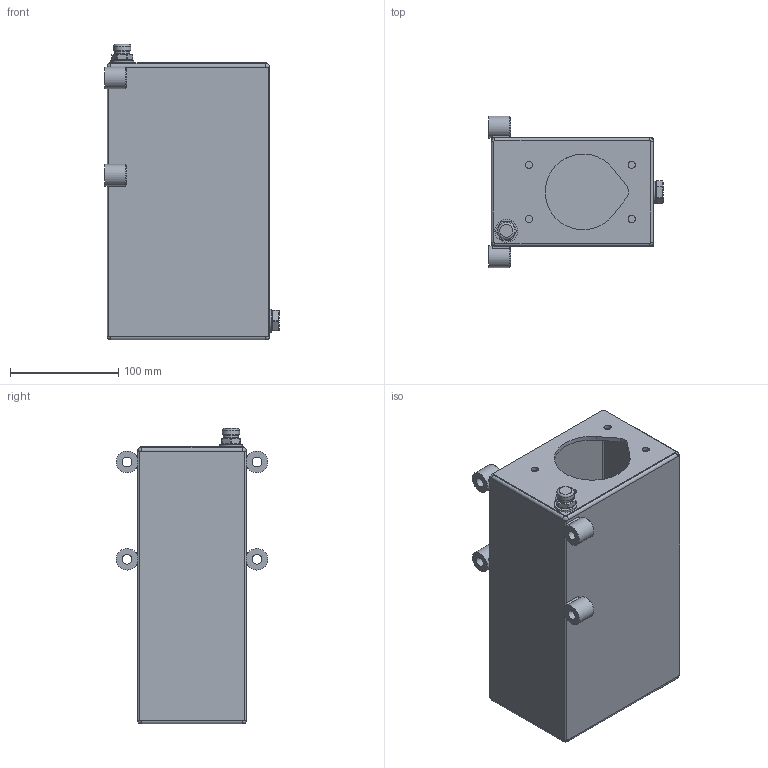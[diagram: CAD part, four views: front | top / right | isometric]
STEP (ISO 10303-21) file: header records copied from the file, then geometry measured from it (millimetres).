
FILE_DESCRIPTION(/* description */ ('S3_(ac)_(100x150)'),/* implementation_level */ '2;1');
FILE_NAME(/* name */ '6500.0360.stp',/* time_stamp */ '2026-02-12T07:55:08+01:00',/* author */ ('christian.scardovi'),/* organization */ ('HV HYDRAULIC s.r.l.'),/* preprocessor_version */ 'ST-DEVELOPER v20.1',/* originating_system */ 'Autodesk Inventor 2026',/* authorisation */ '');
FILE_SCHEMA (('AUTOMOTIVE_DESIGN { 1 0 10303 214 3 1 1 }'));
Length unit declared in the file: millimetre
Products named in the file (12): 6500.0360; 0046.0370.00.00; 0046.0370.00.90; 0046.0370.00.90_1; 0040.0002.00.00; 0022.0052.00.00; 0022.0014.00.00; 0027.0003.00.00; 0022.0010.00.00; 0019.0020.00.00; 0036.0010.00.00; 0036.0006.00.00
Assembly tree (15 placements, depth 4):
  6500.0360
    0046.0370.00.00
      0046.0370.00.90
        0046.0370.00.90_1
        0040.0002.00.00
        0022.0052.00.00
        0022.0014.00.00
        0027.0003.00.00  x4
        0022.0010.00.00
    0019.0020.00.00  x2
    0036.0010.00.00
    0036.0006.00.00
Bounding box: 161 x 140 x 273 mm (x, y, z)
Volume: 480381.6 mm3; surface area: 324156.2 mm2
Topology: 22 solids, 22 shells, 235 faces, 516 edges, 330 vertices
Faces by surface type: plane 107, cylinder 95, cone 21, bspline 8, torus 4
Full cylindrical faces by diameter (mm): 1.5 x1, 5 x1, 6.647 x4, 8 x1, 9 x4, 11.445 x3, 11.5 x1, 13 x3, 13.5 x1, 14 x1, 16 x5, 17 x1, 18 x1, 20 x4, 21 x2
Entity records: 6691 total; most frequent: CARTESIAN_POINT 1222, DIRECTION 1116, ORIENTED_EDGE 944, EDGE_CURVE 472, AXIS2_PLACEMENT_3D 435, VERTEX_POINT 304, LINE 246, VECTOR 246
